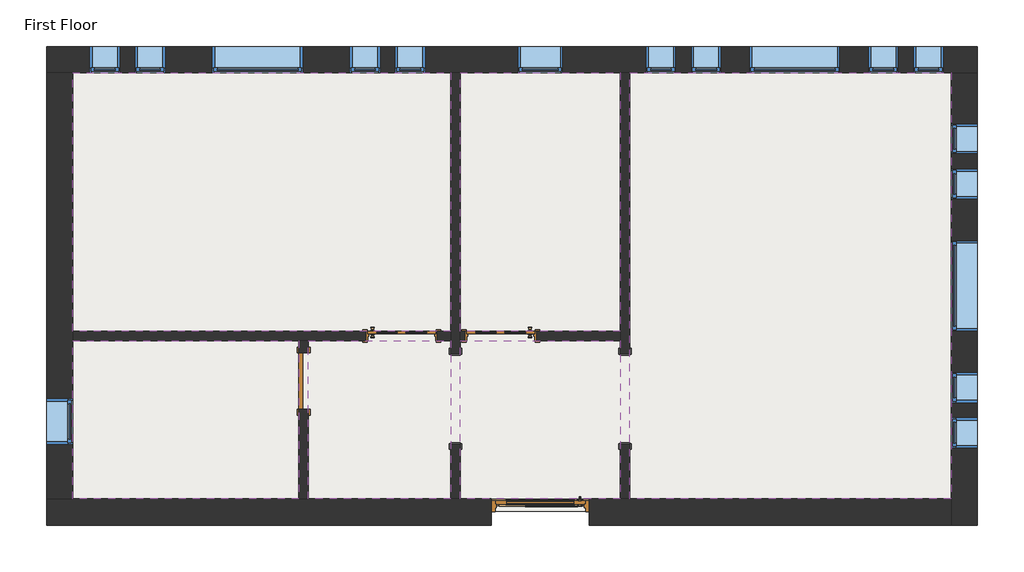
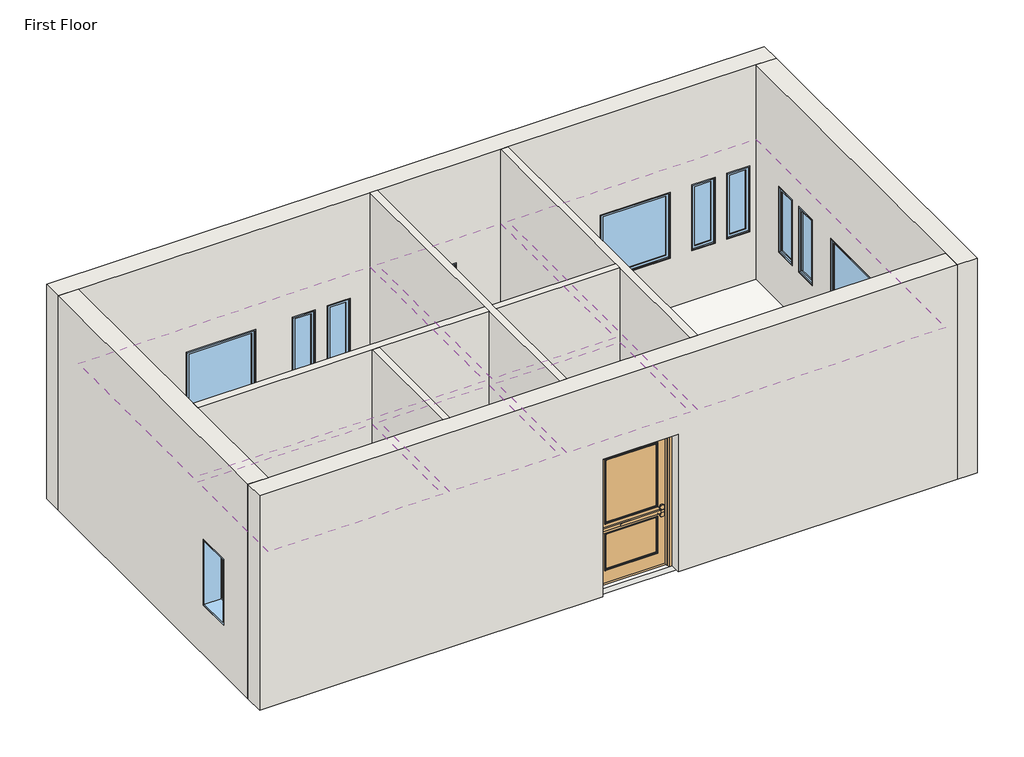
# One storey: 17 windows, 8 walls, 6 coverings, 4 doors, 2 proxies, 1 slab.
"""IFC4 building model written with IfcOpenShell, lengths in millimetres."""

from ifc_helpers import new_model, si_unit, frame, origin, place, context, project, spatial, polyline, outline, extrude, faceted_brep, transform, mapped, element, save
from components import proxy_f44482cc, proxy_d58c73d0, door_734823c0, door_3a280f7b, door_48307b55, door_4d6c7550, window_da97879f, window_d61ef850, window_60baf983, window_6eb97611

model = new_model("IFC4")

# Units and contexts
model_context = context("Model", 3, world=origin())
ifc_project = project(units=[si_unit("LENGTHUNIT", "METRE", prefix="MILLI")], contexts=[model_context])

# Site, building, storey
site = spatial("IfcSite", under=ifc_project)
building = spatial("IfcBuilding", under=site)
storey = spatial("IfcBuildingStorey", under=building, Name="First Floor", Elevation=-914.4)

# Proxies
placement = place(None, origin())
proxy_shape = proxy_f44482cc(model_context)
element("IfcBuildingElementProxy", 1, Name="Passage Opening-Cased : 48\" x 84\"", ObjectType="Passage Opening-Cased : 48\" x 84\"", at=placement, inside=storey, context=model_context, shape_type="MappedRepresentation", body=[
    mapped(proxy_shape, transform((-8577.1844712, 3224.0452741, -914.4), x_axis=(0.0, 1.0, 0.0), y_axis=(-1.0, 0.0, 0.0), z_axis=(0.0, 0.0, 1.0))),
])
proxy_2_shape = proxy_d58c73d0(model_context)
element("IfcBuildingElementProxy", 2, Name="Passage Opening-Cased : 48\" x 84\"", ObjectType="Passage Opening-Cased : 48\" x 84\"", at=placement, inside=storey, context=model_context, shape_type="MappedRepresentation", body=[
    mapped(proxy_2_shape, transform((-10863.1844712, 3224.0452741, -914.4), x_axis=(0.0, 1.0, 0.0), y_axis=(-1.0, 0.0, 0.0), z_axis=(0.0, 0.0, 1.0))),
])

# Coverings
element("IfcCovering", 3, ObjectType="GWB on Mtl. Stud", at=placement, inside=storey, context=model_context, shape_type="SweptSolid", body=[
    extrude(outline(polyline([(-16020.9719712, 7611.6441174), (-10926.6844712, 7611.6441174), (-10926.6844712, 4128.6691174), (-16020.9719712, 4128.6691174), (-16020.9719712, 7611.6441174)])), frame((0.0, 0.0, 1676.4), z_axis=(0.0, 0.0, 1.0), x_axis=(1.0, 0.0, 0.0)), (0.0, 0.0, 1.0), 107.95),
])
element("IfcCovering", 4, ObjectType="GWB on Mtl. Stud", at=placement, inside=storey, context=model_context, shape_type="SweptSolid", body=[
    extrude(outline(polyline([(-10799.6844712, 4128.6691174), (-10799.6844712, 7611.6441174), (-8640.6844712, 7611.6441174), (-8640.6844712, 4128.6691174), (-10799.6844712, 4128.6691174)])), frame((0.0, 0.0, 1676.4), z_axis=(0.0, 0.0, 1.0), x_axis=(1.0, 0.0, 0.0)), (0.0, 0.0, 1.0), 107.95),
])
element("IfcCovering", 5, ObjectType="GWB on Mtl. Stud", at=placement, inside=storey, context=model_context, shape_type="SweptSolid", body=[
    extrude(outline(polyline([(-8513.6844712, 1868.0691174), (-8513.6844712, 7611.6441174), (-4181.3969712, 7611.6441174), (-4181.3969712, 1868.0691174), (-8513.6844712, 1868.0691174)])), frame((0.0, 0.0, 1676.4), z_axis=(0.0, 0.0, 1.0), x_axis=(1.0, 0.0, 0.0)), (0.0, 0.0, 1.0), 107.95),
])
element("IfcCovering", 6, ObjectType="GWB on Mtl. Stud", at=placement, inside=storey, context=model_context, shape_type="SweptSolid", body=[
    extrude(outline(polyline([(-8640.6844712, 1868.0691174), (-10799.6844712, 1868.0691174), (-10799.6844712, 4001.6691174), (-8640.6844712, 4001.6691174), (-8640.6844712, 1868.0691174)])), frame((0.0, 0.0, 1676.4), z_axis=(0.0, 0.0, 1.0), x_axis=(1.0, 0.0, 0.0)), (0.0, 0.0, 1.0), 107.95),
])
element("IfcCovering", 7, ObjectType="GWB on Mtl. Stud", at=placement, inside=storey, context=model_context, shape_type="SweptSolid", body=[
    extrude(outline(polyline([(-10926.6844712, 1868.0691174), (-12845.9719712, 1868.0691174), (-12845.9719712, 4001.6691174), (-10926.6844712, 4001.6691174), (-10926.6844712, 1868.0691174)])), frame((0.0, 0.0, 1676.4), z_axis=(0.0, 0.0, 1.0), x_axis=(1.0, 0.0, 0.0)), (0.0, 0.0, 1.0), 107.95),
])
element("IfcCovering", 8, ObjectType="GWB on Mtl. Stud", at=placement, inside=storey, context=model_context, shape_type="SweptSolid", body=[
    extrude(outline(polyline([(-12972.9719712, 4001.6691174), (-12972.9719712, 1868.0691174), (-16020.9719712, 1868.0691174), (-16020.9719712, 4001.6691174), (-12972.9719712, 4001.6691174)])), frame((0.0, 0.0, 1676.4), z_axis=(0.0, 0.0, 1.0), x_axis=(1.0, 0.0, 0.0)), (0.0, 0.0, 1.0), 107.95),
])

# Doors
door_shape = door_734823c0(model_context)
element("IfcDoor", 9, ObjectType="Door-Exterior-Single-Two_Lite : 48\" x 96\"", at=placement, inside=storey, context=model_context, shape_type="MappedRepresentation", body=[
    mapped(door_shape, transform((-9720.1844712, 1685.5066174, -914.4), x_axis=(-1.0, 0.0, 0.0), y_axis=(0.0, -1.0, 0.0), z_axis=(0.0, 0.0, 1.0))),
])
door_2_shape = door_3a280f7b(model_context)
element("IfcDoor", 10, ObjectType="Door-Interior-Single-4_Panel-Wood : 36\" x 84\"", at=placement, inside=storey, context=model_context, shape_type="MappedRepresentation", body=[
    mapped(door_2_shape, transform((-10253.5844712, 4068.3441174, -914.4), x_axis=(-1.0, 0.0, 0.0), y_axis=(0.0, -1.0, 0.0), z_axis=(0.0, 0.0, 1.0))),
])
door_3_shape = door_48307b55(model_context)
element("IfcDoor", 11, ObjectType="Door-Interior-Single-4_Panel-Wood : 36\" x 84\"", at=placement, inside=storey, context=model_context, shape_type="MappedRepresentation", body=[
    mapped(door_3_shape, transform((-11588.6719712, 4068.3441174, -914.4), x_axis=(1.0, 0.0, 0.0), y_axis=(0.0, 1.0, 0.0), z_axis=(0.0, 0.0, 1.0))),
])
door_4_shape = door_4d6c7550(model_context)
element("IfcDoor", 12, ObjectType="Single-Flush : 30\" x 84\"", at=placement, inside=storey, context=model_context, shape_type="MappedRepresentation", body=[
    mapped(door_4_shape, transform((-12909.4719712, 3455.5691174, -914.4), x_axis=(0.0, 1.0, 0.0), y_axis=(-1.0, 0.0, 0.0), z_axis=(0.0, 0.0, 1.0))),
])

# Slab
element("IfcSlab", 13, ObjectType="LW Concrete on Metal Deck", at=placement, inside=storey, context=model_context, shape_type="SweptSolid", body=[
    extrude(outline(polyline([(-4016.2969712, 7776.7441174), (-4016.2969712, 1702.9691174), (-16186.0719712, 1702.9691174), (-16186.0719712, 7776.7441174), (-4016.2969712, 7776.7441174)])), frame((0.0, 0.0, -1019.175), z_axis=(0.0, 0.0, 1.0), x_axis=(1.0, 0.0, 0.0)), (0.0, 0.0, 1.0), 104.775),
])

# Walls
element("IfcWall", 14, ObjectType="Exterior - Brick on Mtl. Stud", at=placement, inside=storey, context=model_context, shape_type="Brep", body=[
    faceted_brep([(-16373.3969712, 7611.6441174, -914.4), (-16186.0719712, 7611.6441174, -914.4), (-16020.9719712, 7611.6441174, -914.4), (-10926.6844712, 7611.6441174, -914.4), (-10799.6844712, 7611.6441174, -914.4), (-8640.6844712, 7611.6441174, -914.4), (-8513.6844712, 7611.6441174, -914.4), (-4181.3969712, 7611.6441174, -914.4), (-4016.2969712, 7611.6441174, -914.4), (-3828.9719712, 7611.6441174, -914.4), (-3828.9719712, 7611.6441174, 3048.0), (-4181.3969712, 7611.6441174, 3048.0), (-8513.6844712, 7611.6441174, 3048.0), (-8640.6844712, 7611.6441174, 3048.0), (-10799.6844712, 7611.6441174, 3048.0), (-10926.6844712, 7611.6441174, 3048.0), (-16020.9719712, 7611.6441174, 3048.0), (-16373.3969712, 7611.6441174, 3048.0), (-10024.9844712, 7611.6441174, 1219.2), (-9415.3844712, 7611.6441174, 1219.2), (-9415.3844712, 7611.6441174, 0.0), (-10024.9844712, 7611.6441174, 0.0), (-14139.7844712, 7611.6441174, 1219.2), (-12920.5844712, 7611.6441174, 1219.2), (-12920.5844712, 7611.6441174, 0.0), (-14139.7844712, 7611.6441174, 0.0), (-6900.7844712, 7611.6441174, 1219.2), (-5681.5844712, 7611.6441174, 1219.2), (-5681.5844712, 7611.6441174, 0.0), (-6900.7844712, 7611.6441174, 0.0), (-15790.7844712, 7611.6441174, 1219.2), (-15384.3844712, 7611.6441174, 1219.2), (-15384.3844712, 7611.6441174, 0.0), (-15790.7844712, 7611.6441174, 0.0), (-15181.1844712, 7611.6441174, 1219.2), (-14774.7844712, 7611.6441174, 1219.2), (-14774.7844712, 7611.6441174, 0.0), (-15181.1844712, 7611.6441174, 0.0), (-11879.1844712, 7611.6441174, 1219.2), (-11879.1844712, 7611.6441174, 0.0), (-12285.5844712, 7611.6441174, 0.0), (-12285.5844712, 7611.6441174, 1219.2), (-11269.5844712, 7611.6441174, 1219.2), (-11269.5844712, 7611.6441174, 0.0), (-11675.9844712, 7611.6441174, 0.0), (-11675.9844712, 7611.6441174, 1219.2), (-7688.1844712, 7611.6441174, 1219.2), (-7281.7844712, 7611.6441174, 1219.2), (-7281.7844712, 7611.6441174, 0.0), (-7688.1844712, 7611.6441174, 0.0), (-8297.7844712, 7611.6441174, 1219.2), (-7891.3844712, 7611.6441174, 1219.2), (-7891.3844712, 7611.6441174, 0.0), (-8297.7844712, 7611.6441174, 0.0), (-4894.1844712, 7611.6441174, 1219.2), (-4894.1844712, 7611.6441174, 0.0), (-5300.5844712, 7611.6441174, 0.0), (-5300.5844712, 7611.6441174, 1219.2), (-4284.5844712, 7611.6441174, 1219.2), (-4284.5844712, 7611.6441174, 0.0), (-4690.9844712, 7611.6441174, 0.0), (-4690.9844712, 7611.6441174, 1219.2), (-16373.3969712, 7964.0691174, -914.4), (-16373.3969712, 7964.0691174, 3048.0), (-3828.9719712, 7964.0691174, 3048.0), (-3828.9719712, 7964.0691174, -914.4), (-4016.2969712, 7964.0691174, -914.4), (-16186.0719712, 7964.0691174, -914.4), (-10024.9844712, 7964.0691174, 1219.2), (-10024.9844712, 7964.0691174, 0.0), (-9415.3844712, 7964.0691174, 0.0), (-9415.3844712, 7964.0691174, 1219.2), (-14139.7844712, 7964.0691174, 1219.2), (-14139.7844712, 7964.0691174, 0.0), (-12920.5844712, 7964.0691174, 0.0), (-12920.5844712, 7964.0691174, 1219.2), (-6900.7844712, 7964.0691174, 1219.2), (-6900.7844712, 7964.0691174, 0.0), (-5681.5844712, 7964.0691174, 0.0), (-5681.5844712, 7964.0691174, 1219.2), (-15790.7844712, 7964.0691174, 1219.2), (-15790.7844712, 7964.0691174, 0.0), (-15384.3844712, 7964.0691174, 0.0), (-15384.3844712, 7964.0691174, 1219.2), (-15181.1844712, 7964.0691174, 1219.2), (-15181.1844712, 7964.0691174, 0.0), (-14774.7844712, 7964.0691174, 0.0), (-14774.7844712, 7964.0691174, 1219.2), (-11879.1844712, 7964.0691174, 1219.2), (-12285.5844712, 7964.0691174, 1219.2), (-12285.5844712, 7964.0691174, 0.0), (-11879.1844712, 7964.0691174, 0.0), (-11269.5844712, 7964.0691174, 1219.2), (-11675.9844712, 7964.0691174, 1219.2), (-11675.9844712, 7964.0691174, 0.0), (-11269.5844712, 7964.0691174, 0.0), (-7688.1844712, 7964.0691174, 1219.2), (-7688.1844712, 7964.0691174, 0.0), (-7281.7844712, 7964.0691174, 0.0), (-7281.7844712, 7964.0691174, 1219.2), (-8297.7844712, 7964.0691174, 1219.2), (-8297.7844712, 7964.0691174, 0.0), (-7891.3844712, 7964.0691174, 0.0), (-7891.3844712, 7964.0691174, 1219.2), (-4894.1844712, 7964.0691174, 1219.2), (-5300.5844712, 7964.0691174, 1219.2), (-5300.5844712, 7964.0691174, 0.0), (-4894.1844712, 7964.0691174, 0.0), (-4284.5844712, 7964.0691174, 1219.2), (-4690.9844712, 7964.0691174, 1219.2), (-4690.9844712, 7964.0691174, 0.0), (-4284.5844712, 7964.0691174, 0.0), (-3828.9719712, 7776.7441174, -914.4), (-16373.3969712, 7776.7441174, -914.4), (-16186.0719712, 7776.7441174, -914.4), (-4016.2969712, 7776.7441174, -914.4)], [[[0, 1, 2, 3, 4, 5, 6, 7, 8, 9, 10, 11, 12, 13, 14, 15, 16, 17], [18, 19, 20, 21], [22, 23, 24, 25], [26, 27, 28, 29], [30, 31, 32, 33], [34, 35, 36, 37], [38, 39, 40, 41], [42, 43, 44, 45], [46, 47, 48, 49], [50, 51, 52, 53], [54, 55, 56, 57], [58, 59, 60, 61]], [[62, 63, 64, 65, 66, 67], [68, 69, 70, 71], [72, 73, 74, 75], [76, 77, 78, 79], [80, 81, 82, 83], [84, 85, 86, 87], [88, 89, 90, 91], [92, 93, 94, 95], [96, 97, 98, 99], [100, 101, 102, 103], [104, 105, 106, 107], [108, 109, 110, 111]], [[17, 16, 15, 14, 13, 12, 11, 10, 64, 63]], [[10, 9, 112, 65, 64]], [[0, 17, 63, 62, 113]], [[69, 68, 18, 21]], [[70, 69, 21, 20]], [[71, 70, 20, 19]], [[68, 71, 19, 18]], [[73, 72, 22, 25]], [[74, 73, 25, 24]], [[75, 74, 24, 23]], [[72, 75, 23, 22]], [[77, 76, 26, 29]], [[78, 77, 29, 28]], [[79, 78, 28, 27]], [[76, 79, 27, 26]], [[81, 80, 30, 33]], [[82, 81, 33, 32]], [[83, 82, 32, 31]], [[80, 83, 31, 30]], [[85, 84, 34, 37]], [[86, 85, 37, 36]], [[87, 86, 36, 35]], [[84, 87, 35, 34]], [[39, 38, 88, 91]], [[40, 39, 91, 90]], [[41, 40, 90, 89]], [[38, 41, 89, 88]], [[43, 42, 92, 95]], [[44, 43, 95, 94]], [[45, 44, 94, 93]], [[42, 45, 93, 92]], [[97, 96, 46, 49]], [[98, 97, 49, 48]], [[99, 98, 48, 47]], [[96, 99, 47, 46]], [[101, 100, 50, 53]], [[102, 101, 53, 52]], [[103, 102, 52, 51]], [[100, 103, 51, 50]], [[55, 54, 104, 107]], [[56, 55, 107, 106]], [[57, 56, 106, 105]], [[54, 57, 105, 104]], [[59, 58, 108, 111]], [[60, 59, 111, 110]], [[61, 60, 110, 109]], [[58, 61, 109, 108]], [[1, 0, 113, 114]], [[113, 62, 67, 114]], [[9, 8, 115, 112]], [[67, 66, 115, 114]], [[66, 65, 112, 115]], [[8, 7, 6, 5, 4, 3, 2, 1, 114, 115]]]),
])
element("IfcWall", 15, ObjectType="Exterior - Brick on Mtl. Stud", at=placement, inside=storey, context=model_context, shape_type="Brep", body=[
    faceted_brep([(-4181.3969712, 7611.6441174, -914.4), (-4181.3969712, 1868.0691174, -914.4), (-4181.3969712, 1702.9691174, -914.4), (-4181.3969712, 1515.6441174, -914.4), (-4181.3969712, 1515.6441174, 3048.0), (-4181.3969712, 1868.0691174, 3048.0), (-4181.3969712, 7611.6441174, 3048.0), (-4181.3969712, 5349.4566174, 1219.2), (-4181.3969712, 4130.2566174, 1219.2), (-4181.3969712, 4130.2566174, 0.0), (-4181.3969712, 5349.4566174, 0.0), (-4181.3969712, 6314.6566174, 1219.2), (-4181.3969712, 5908.2566174, 1219.2), (-4181.3969712, 5908.2566174, 0.0), (-4181.3969712, 6314.6566174, 0.0), (-4181.3969712, 6924.2566174, 1219.2), (-4181.3969712, 6517.8566174, 1219.2), (-4181.3969712, 6517.8566174, 0.0), (-4181.3969712, 6924.2566174, 0.0), (-4181.3969712, 3165.0566174, 1219.2), (-4181.3969712, 3165.0566174, 0.0), (-4181.3969712, 3571.4566174, 0.0), (-4181.3969712, 3571.4566174, 1219.2), (-4181.3969712, 2555.4566174, 1219.2), (-4181.3969712, 2555.4566174, 0.0), (-4181.3969712, 2961.8566174, 0.0), (-4181.3969712, 2961.8566174, 1219.2), (-3828.9719712, 7611.6441174, -914.4), (-3828.9719712, 7611.6441174, 3048.0), (-3828.9719712, 1515.6441174, 3048.0), (-3828.9719712, 1515.6441174, -914.4), (-3828.9719712, 1702.9691174, -914.4), (-3828.9719712, 5349.4566174, 1219.2), (-3828.9719712, 5349.4566174, 0.0), (-3828.9719712, 4130.2566174, 0.0), (-3828.9719712, 4130.2566174, 1219.2), (-3828.9719712, 6314.6566174, 1219.2), (-3828.9719712, 6314.6566174, 0.0), (-3828.9719712, 5908.2566174, 0.0), (-3828.9719712, 5908.2566174, 1219.2), (-3828.9719712, 6924.2566174, 1219.2), (-3828.9719712, 6924.2566174, 0.0), (-3828.9719712, 6517.8566174, 0.0), (-3828.9719712, 6517.8566174, 1219.2), (-3828.9719712, 3165.0566174, 1219.2), (-3828.9719712, 3571.4566174, 1219.2), (-3828.9719712, 3571.4566174, 0.0), (-3828.9719712, 3165.0566174, 0.0), (-3828.9719712, 2555.4566174, 1219.2), (-3828.9719712, 2961.8566174, 1219.2), (-3828.9719712, 2961.8566174, 0.0), (-3828.9719712, 2555.4566174, 0.0), (-4016.2969712, 7611.6441174, -914.4), (-4016.2969712, 1515.6441174, -914.4), (-4016.2969712, 1702.9691174, -914.4)], [[[0, 1, 2, 3, 4, 5, 6], [7, 8, 9, 10], [11, 12, 13, 14], [15, 16, 17, 18], [19, 20, 21, 22], [23, 24, 25, 26]], [[27, 28, 29, 30, 31], [32, 33, 34, 35], [36, 37, 38, 39], [40, 41, 42, 43], [44, 45, 46, 47], [48, 49, 50, 51]], [[6, 5, 4, 29, 28]], [[0, 6, 28, 27, 52]], [[4, 3, 53, 30, 29]], [[33, 32, 7, 10]], [[34, 33, 10, 9]], [[35, 34, 9, 8]], [[32, 35, 8, 7]], [[37, 36, 11, 14]], [[38, 37, 14, 13]], [[39, 38, 13, 12]], [[36, 39, 12, 11]], [[41, 40, 15, 18]], [[42, 41, 18, 17]], [[43, 42, 17, 16]], [[40, 43, 16, 15]], [[20, 19, 44, 47]], [[21, 20, 47, 46]], [[22, 21, 46, 45]], [[19, 22, 45, 44]], [[24, 23, 48, 51]], [[25, 24, 51, 50]], [[26, 25, 50, 49]], [[23, 26, 49, 48]], [[52, 27, 31, 54]], [[3, 2, 54, 53]], [[54, 31, 30, 53]], [[2, 1, 0, 52, 54]]]),
])
element("IfcWall", 16, ObjectType="Exterior - Brick on Mtl. Stud", at=placement, inside=storey, context=model_context, shape_type="Brep", body=[
    faceted_brep([(-16373.3969712, 1868.0691174, 3048.0), (-16020.9719712, 1868.0691174, 3048.0), (-12972.9719712, 1868.0691174, 3048.0), (-12845.9719712, 1868.0691174, 3048.0), (-10926.6844712, 1868.0691174, 3048.0), (-10799.6844712, 1868.0691174, 3048.0), (-8640.6844712, 1868.0691174, 3048.0), (-8513.6844712, 1868.0691174, 3048.0), (-4181.3969712, 1868.0691174, 3048.0), (-4181.3969712, 1868.0691174, -914.4), (-8513.6844712, 1868.0691174, -914.4), (-8640.6844712, 1868.0691174, -914.4), (-9059.7844712, 1868.0691174, -914.4), (-9059.7844712, 1868.0691174, 1625.6), (-10380.5844712, 1868.0691174, 1625.6), (-10380.5844712, 1868.0691174, -914.4), (-10799.6844712, 1868.0691174, -914.4), (-10926.6844712, 1868.0691174, -914.4), (-12845.9719712, 1868.0691174, -914.4), (-12972.9719712, 1868.0691174, -914.4), (-16020.9719712, 1868.0691174, -914.4), (-16373.3969712, 1868.0691174, -914.4), (-4181.3969712, 1515.6441174, 3048.0), (-16373.3969712, 1515.6441174, 3048.0), (-16373.3969712, 1515.6441174, -914.4), (-10380.5844712, 1515.6441174, -914.4), (-10380.5844712, 1515.6441174, 1625.6), (-9059.7844712, 1515.6441174, 1625.6), (-9059.7844712, 1515.6441174, -914.4), (-4181.3969712, 1515.6441174, -914.4)], [[[0, 1, 2, 3, 4, 5, 6, 7, 8, 9, 10, 11, 12, 13, 14, 15, 16, 17, 18, 19, 20, 21]], [[22, 23, 24, 25, 26, 27, 28, 29]], [[9, 29, 28, 12, 11, 10]], [[24, 21, 20, 19, 18, 17, 16, 15, 25]], [[8, 7, 6, 5, 4, 3, 2, 1, 0, 23, 22]], [[9, 8, 22, 29]], [[0, 21, 24, 23]], [[14, 26, 25, 15]], [[26, 14, 13, 27]], [[27, 13, 12, 28]]]),
])
element("IfcWall", 17, ObjectType="Exterior - Brick on Mtl. Stud", at=placement, inside=storey, context=model_context, shape_type="Brep", body=[
    faceted_brep([(-16020.9719712, 1868.0691174, -914.4), (-16020.9719712, 4001.6691174, -914.4), (-16020.9719712, 4128.6691174, -914.4), (-16020.9719712, 7611.6441174, -914.4), (-16020.9719712, 7611.6441174, 3048.0), (-16020.9719712, 4128.6691174, 3048.0), (-16020.9719712, 4001.6691174, 3048.0), (-16020.9719712, 1868.0691174, 3048.0), (-16020.9719712, 2606.2566174, 1219.2), (-16020.9719712, 3215.8566174, 1219.2), (-16020.9719712, 3215.8566174, 0.0), (-16020.9719712, 2606.2566174, 0.0), (-16373.3969712, 1868.0691174, -914.4), (-16373.3969712, 1868.0691174, 3048.0), (-16373.3969712, 7611.6441174, 3048.0), (-16373.3969712, 7611.6441174, -914.4), (-16373.3969712, 2606.2566174, 1219.2), (-16373.3969712, 2606.2566174, 0.0), (-16373.3969712, 3215.8566174, 0.0), (-16373.3969712, 3215.8566174, 1219.2), (-16186.0719712, 1868.0691174, -914.4), (-16186.0719712, 7611.6441174, -914.4)], [[[0, 1, 2, 3, 4, 5, 6, 7], [8, 9, 10, 11]], [[12, 13, 14, 15], [16, 17, 18, 19]], [[7, 6, 5, 4, 14, 13]], [[0, 7, 13, 12, 20]], [[4, 3, 21, 15, 14]], [[17, 16, 8, 11]], [[18, 17, 11, 10]], [[19, 18, 10, 9]], [[16, 19, 9, 8]], [[20, 12, 15, 21]], [[3, 2, 1, 0, 20, 21]]]),
])
element("IfcWall", 18, ObjectType="Interior - 5\" Partition (2-hr)", at=placement, inside=storey, context=model_context, shape_type="Brep", body=[
    faceted_brep([(-8640.6844712, 7611.6441174, -914.4), (-8640.6844712, 4128.6691174, -914.4), (-8640.6844712, 4001.6691174, -914.4), (-8640.6844712, 3825.4566174, -914.4), (-8640.6844712, 3825.4566174, 1219.2), (-8640.6844712, 2606.2566174, 1219.2), (-8640.6844712, 2606.2566174, -914.4), (-8640.6844712, 1868.0691174, -914.4), (-8640.6844712, 1868.0691174, 3048.0), (-8640.6844712, 4001.6691174, 3048.0), (-8640.6844712, 4128.6691174, 3048.0), (-8640.6844712, 7611.6441174, 3048.0), (-8513.6844712, 3825.4566174, 1219.2), (-8513.6844712, 3825.4566174, -914.4), (-8513.6844712, 7611.6441174, -914.4), (-8513.6844712, 7611.6441174, 3048.0), (-8513.6844712, 1868.0691174, 3048.0), (-8513.6844712, 1868.0691174, -914.4), (-8513.6844712, 2606.2566174, -914.4), (-8513.6844712, 2606.2566174, 1219.2)], [[[0, 1, 2, 3, 4, 5, 6, 7, 8, 9, 10, 11]], [[12, 13, 14, 15, 16, 17, 18, 19]], [[18, 17, 7, 6]], [[14, 13, 3, 2, 1, 0]], [[11, 10, 9, 8, 16, 15]], [[0, 11, 15, 14]], [[8, 7, 17, 16]], [[6, 5, 19, 18]], [[4, 3, 13, 12]], [[5, 4, 12, 19]]]),
])
element("IfcWall", 19, ObjectType="Interior - 5\" Partition (2-hr)", at=placement, inside=storey, context=model_context, shape_type="Brep", body=[
    faceted_brep([(-10926.6844712, 7611.6441174, -914.4), (-10926.6844712, 4128.6691174, -914.4), (-10926.6844712, 4001.6691174, -914.4), (-10926.6844712, 3825.4566174, -914.4), (-10926.6844712, 3825.4566174, 1219.2), (-10926.6844712, 2606.2566174, 1219.2), (-10926.6844712, 2606.2566174, -914.4), (-10926.6844712, 1868.0691174, -914.4), (-10926.6844712, 1868.0691174, 3048.0), (-10926.6844712, 4001.6691174, 3048.0), (-10926.6844712, 4128.6691174, 3048.0), (-10926.6844712, 7611.6441174, 3048.0), (-10799.6844712, 3825.4566174, 1219.2), (-10799.6844712, 3825.4566174, -914.4), (-10799.6844712, 4001.6691174, -914.4), (-10799.6844712, 4128.6691174, -914.4), (-10799.6844712, 7611.6441174, -914.4), (-10799.6844712, 7611.6441174, 3048.0), (-10799.6844712, 4128.6691174, 3048.0), (-10799.6844712, 4001.6691174, 3048.0), (-10799.6844712, 1868.0691174, 3048.0), (-10799.6844712, 1868.0691174, -914.4), (-10799.6844712, 2606.2566174, -914.4), (-10799.6844712, 2606.2566174, 1219.2)], [[[0, 1, 2, 3, 4, 5, 6, 7, 8, 9, 10, 11]], [[12, 13, 14, 15, 16, 17, 18, 19, 20, 21, 22, 23]], [[22, 21, 7, 6]], [[16, 15, 14, 13, 3, 2, 1, 0]], [[11, 10, 9, 8, 20, 19, 18, 17]], [[0, 11, 17, 16]], [[8, 7, 21, 20]], [[6, 5, 23, 22]], [[4, 3, 13, 12]], [[5, 4, 12, 23]]]),
])
element("IfcWall", 20, ObjectType="Interior - 5\" Partition (2-hr)", at=placement, inside=storey, context=model_context, shape_type="Brep", body=[
    faceted_brep([(-16020.9719712, 4001.6691174, 3048.0), (-16020.9719712, 4001.6691174, -914.4), (-12972.9719712, 4001.6691174, -914.4), (-12845.9719712, 4001.6691174, -914.4), (-12071.2719712, 4001.6691174, -914.4), (-12071.2719712, 4001.6691174, 1244.6), (-11106.0719712, 4001.6691174, 1244.6), (-11106.0719712, 4001.6691174, -914.4), (-10926.6844712, 4001.6691174, -914.4), (-10926.6844712, 4001.6691174, 3048.0), (-12845.9719712, 4001.6691174, 3048.0), (-12972.9719712, 4001.6691174, 3048.0), (-16020.9719712, 4128.6691174, -914.4), (-16020.9719712, 4128.6691174, 3048.0), (-10926.6844712, 4128.6691174, 3048.0), (-10926.6844712, 4128.6691174, -914.4), (-11106.0719712, 4128.6691174, -914.4), (-11106.0719712, 4128.6691174, 1244.6), (-12071.2719712, 4128.6691174, 1244.6), (-12071.2719712, 4128.6691174, -914.4)], [[[0, 1, 2, 3, 4, 5, 6, 7, 8, 9, 10, 11]], [[12, 13, 14, 15, 16, 17, 18, 19]], [[1, 12, 19, 4, 3, 2]], [[7, 16, 15, 8]], [[13, 0, 11, 10, 9, 14]], [[1, 0, 13, 12]], [[9, 8, 15, 14]], [[6, 17, 16, 7]], [[17, 6, 5, 18]], [[18, 5, 4, 19]]]),
    faceted_brep([(-8640.6844712, 4001.6691174, -914.4), (-8640.6844712, 4001.6691174, 3048.0), (-10799.6844712, 4001.6691174, 3048.0), (-10799.6844712, 4001.6691174, -914.4), (-10736.1844712, 4001.6691174, -914.4), (-10736.1844712, 4001.6691174, 1244.6), (-9770.9844712, 4001.6691174, 1244.6), (-9770.9844712, 4001.6691174, -914.4), (-8640.6844712, 4128.6691174, 3048.0), (-8640.6844712, 4128.6691174, -914.4), (-9770.9844712, 4128.6691174, -914.4), (-9770.9844712, 4128.6691174, 1244.6), (-10736.1844712, 4128.6691174, 1244.6), (-10736.1844712, 4128.6691174, -914.4), (-10799.6844712, 4128.6691174, -914.4), (-10799.6844712, 4128.6691174, 3048.0)], [[[0, 1, 2, 3, 4, 5, 6, 7]], [[8, 9, 10, 11, 12, 13, 14, 15]], [[9, 0, 7, 10]], [[13, 4, 3, 14]], [[1, 8, 15, 2]], [[1, 0, 9, 8]], [[3, 2, 15, 14]], [[5, 4, 13, 12]], [[6, 5, 12, 11]], [[7, 6, 11, 10]]]),
])
element("IfcWall", 21, ObjectType="Interior - 5\" Partition (2-hr)", at=placement, inside=storey, context=model_context, shape_type="SweptSolid", body=[
    extrude(outline(polyline([(4001.6691174, -914.4), (3836.5691174, -914.4), (3836.5691174, 1219.2), (3074.5691174, 1219.2), (3074.5691174, -914.4), (1868.0691174, -914.4), (1868.0691174, 3048.0), (4001.6691174, 3048.0), (4001.6691174, -914.4)])), frame((-12972.9719712, 0.0, 0.0), z_axis=(1.0, 0.0, 0.0), x_axis=(0.0, 1.0, 0.0)), (0.0, 0.0, 1.0), 127.0),
])

# Windows
window_shape = window_da97879f(model_context)
element("IfcWindow", 22, ObjectType="Fixed : 16\" x 48\"", at=placement, inside=storey, context=model_context, shape_type="MappedRepresentation", body=[
    mapped(window_shape, transform((-15625.6844712, 7787.8566174, -914.4), x_axis=(-1.0, 0.0, 0.0), y_axis=(0.0, -1.0, 0.0), z_axis=(0.0, 0.0, 1.0))),
])
element("IfcWindow", 23, ObjectType="Fixed : 16\" x 48\"", at=placement, inside=storey, context=model_context, shape_type="MappedRepresentation", body=[
    mapped(window_shape, transform((-15016.0844712, 7787.8566174, -914.4), x_axis=(-1.0, 0.0, 0.0), y_axis=(0.0, -1.0, 0.0), z_axis=(0.0, 0.0, 1.0))),
])
element("IfcWindow", 24, ObjectType="Fixed : 16\" x 48\"", at=placement, inside=storey, context=model_context, shape_type="MappedRepresentation", body=[
    mapped(window_shape, transform((-8132.6844712, 7787.8566174, -914.4), x_axis=(-1.0, 0.0, 0.0), y_axis=(0.0, -1.0, 0.0), z_axis=(0.0, 0.0, 1.0))),
])
element("IfcWindow", 25, ObjectType="Fixed : 16\" x 48\"", at=placement, inside=storey, context=model_context, shape_type="MappedRepresentation", body=[
    mapped(window_shape, transform((-7523.0844712, 7787.8566174, -914.4), x_axis=(-1.0, 0.0, 0.0), y_axis=(0.0, -1.0, 0.0), z_axis=(0.0, 0.0, 1.0))),
])
element("IfcWindow", 26, ObjectType="Fixed : 16\" x 48\"", at=placement, inside=storey, context=model_context, shape_type="MappedRepresentation", body=[
    mapped(window_shape, transform((-4005.1844712, 6759.1566174, -914.4), x_axis=(0.0, 1.0, 0.0), y_axis=(-1.0, 0.0, 0.0), z_axis=(0.0, 0.0, 1.0))),
])
element("IfcWindow", 27, ObjectType="Fixed : 16\" x 48\"", at=placement, inside=storey, context=model_context, shape_type="MappedRepresentation", body=[
    mapped(window_shape, transform((-4005.1844712, 6149.5566174, -914.4), x_axis=(0.0, 1.0, 0.0), y_axis=(-1.0, 0.0, 0.0), z_axis=(0.0, 0.0, 1.0))),
])
window_2_shape = window_d61ef850(model_context)
element("IfcWindow", 28, ObjectType="Fixed : 16\" x 48\"", at=placement, inside=storey, context=model_context, shape_type="MappedRepresentation", body=[
    mapped(window_2_shape, transform((-11434.6844712, 7787.8566174, -914.4), x_axis=(1.0, 0.0, 0.0), y_axis=(0.0, 1.0, 0.0), z_axis=(0.0, 0.0, 1.0))),
])
element("IfcWindow", 29, ObjectType="Fixed : 16\" x 48\"", at=placement, inside=storey, context=model_context, shape_type="MappedRepresentation", body=[
    mapped(window_2_shape, transform((-12044.2844712, 7787.8566174, -914.4), x_axis=(1.0, 0.0, 0.0), y_axis=(0.0, 1.0, 0.0), z_axis=(0.0, 0.0, 1.0))),
])
element("IfcWindow", 30, ObjectType="Fixed : 16\" x 48\"", at=placement, inside=storey, context=model_context, shape_type="MappedRepresentation", body=[
    mapped(window_2_shape, transform((-4449.6844712, 7787.8566174, -914.4), x_axis=(1.0, 0.0, 0.0), y_axis=(0.0, 1.0, 0.0), z_axis=(0.0, 0.0, 1.0))),
])
element("IfcWindow", 31, ObjectType="Fixed : 16\" x 48\"", at=placement, inside=storey, context=model_context, shape_type="MappedRepresentation", body=[
    mapped(window_2_shape, transform((-5059.2844712, 7787.8566174, -914.4), x_axis=(1.0, 0.0, 0.0), y_axis=(0.0, 1.0, 0.0), z_axis=(0.0, 0.0, 1.0))),
])
element("IfcWindow", 32, ObjectType="Fixed : 16\" x 48\"", at=placement, inside=storey, context=model_context, shape_type="MappedRepresentation", body=[
    mapped(window_2_shape, transform((-4005.1844712, 2720.5566174, -914.4), x_axis=(0.0, -1.0, 0.0), y_axis=(1.0, 0.0, 0.0), z_axis=(0.0, 0.0, 1.0))),
])
element("IfcWindow", 33, ObjectType="Fixed : 16\" x 48\"", at=placement, inside=storey, context=model_context, shape_type="MappedRepresentation", body=[
    mapped(window_2_shape, transform((-4005.1844712, 3330.1566174, -914.4), x_axis=(0.0, -1.0, 0.0), y_axis=(1.0, 0.0, 0.0), z_axis=(0.0, 0.0, 1.0))),
])
window_3_shape = window_60baf983(model_context)
element("IfcWindow", 34, ObjectType="Fixed : 24\" x 48\"", at=placement, inside=storey, context=model_context, shape_type="MappedRepresentation", body=[
    mapped(window_3_shape, transform((-9758.2844712, 7787.8566174, -914.4), x_axis=(-1.0, 0.0, 0.0), y_axis=(0.0, -1.0, 0.0), z_axis=(0.0, 0.0, 1.0))),
])
element("IfcWindow", 35, ObjectType="Fixed : 24\" x 48\"", at=placement, inside=storey, context=model_context, shape_type="MappedRepresentation", body=[
    mapped(window_3_shape, transform((-16197.1844712, 2872.9566174, -914.4), x_axis=(0.0, -1.0, 0.0), y_axis=(1.0, 0.0, 0.0), z_axis=(0.0, 0.0, 1.0))),
])
window_4_shape = window_6eb97611(model_context)
element("IfcWindow", 36, ObjectType="Fixed : 48\" x 48\"", at=placement, inside=storey, context=model_context, shape_type="MappedRepresentation", body=[
    mapped(window_4_shape, transform((-13568.2844712, 7787.8566174, -914.4), x_axis=(-1.0, 0.0, 0.0), y_axis=(0.0, -1.0, 0.0), z_axis=(0.0, 0.0, 1.0))),
])
element("IfcWindow", 37, ObjectType="Fixed : 48\" x 48\"", at=placement, inside=storey, context=model_context, shape_type="MappedRepresentation", body=[
    mapped(window_4_shape, transform((-6329.2844712, 7787.8566174, -914.4), x_axis=(-1.0, 0.0, 0.0), y_axis=(0.0, -1.0, 0.0), z_axis=(0.0, 0.0, 1.0))),
])
element("IfcWindow", 38, ObjectType="Fixed : 48\" x 48\"", at=placement, inside=storey, context=model_context, shape_type="MappedRepresentation", body=[
    mapped(window_4_shape, transform((-4005.1844712, 4777.9566174, -914.4), x_axis=(0.0, 1.0, 0.0), y_axis=(-1.0, 0.0, 0.0), z_axis=(0.0, 0.0, 1.0))),
])

save(model, "model.ifc")
